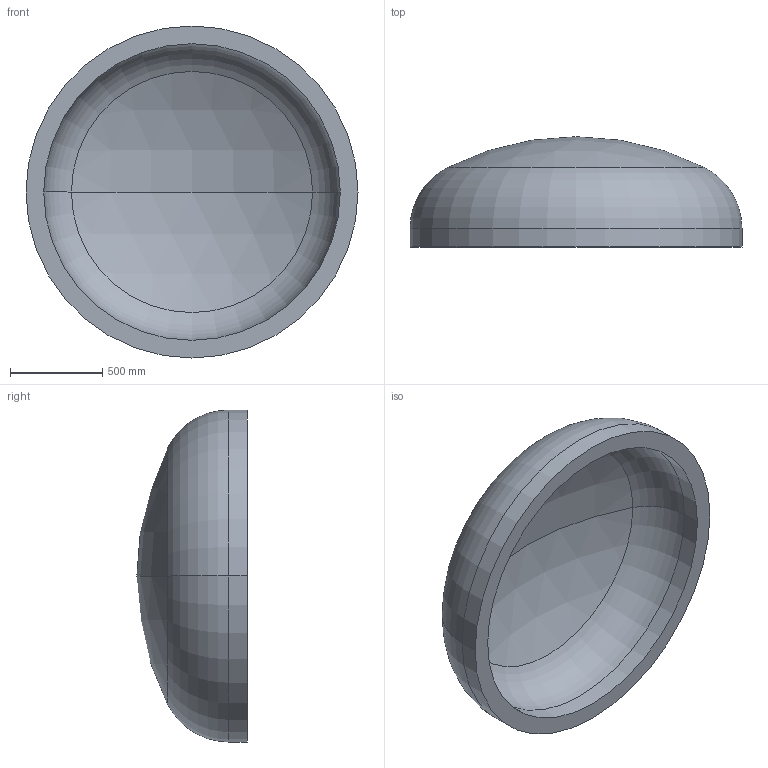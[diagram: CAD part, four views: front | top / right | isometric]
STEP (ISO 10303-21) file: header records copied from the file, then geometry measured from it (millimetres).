
FILE_DESCRIPTION (( 'STEP AP203' ), '1' );
FILE_NAME ('DIN 28013 Korbbogenform_-_Boden DIN 28013 - 1800 x 100 - I - s=96.step', '2016-07-01T12:44:21', ( '' ), ( '' ), 'SwSTEP 2.0', 'SolidWorks 2013', '' );
FILE_SCHEMA (( 'CONFIG_CONTROL_DESIGN' ));
Length unit declared in the file: millimetre
Products named in the file (1): DIN 28013 Korbbogenform_-_Boden DIN 28013 - 1800 x 100 - I - s=96
Bounding box: 1800 x 598.03 x 1800 mm (x, y, z)
Volume: 366862179.9 mm3; surface area: 8176176.3 mm2
Topology: 1 solids, 1 shells, 13 faces, 24 edges, 14 vertices
Faces by surface type: torus 4, cylinder 4, sphere 4, plane 1
Entity records: 407 total; most frequent: DIRECTION 72, CARTESIAN_POINT 52, ORIENTED_EDGE 48, AXIS2_PLACEMENT_3D 34, EDGE_CURVE 24, CIRCLE 20, VERTEX_POINT 14, EDGE_LOOP 14
